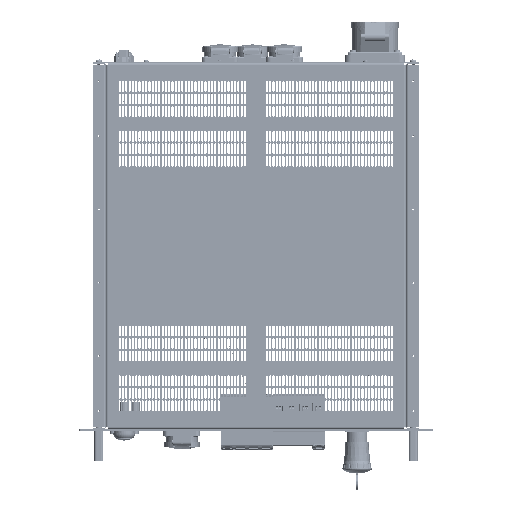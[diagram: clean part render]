
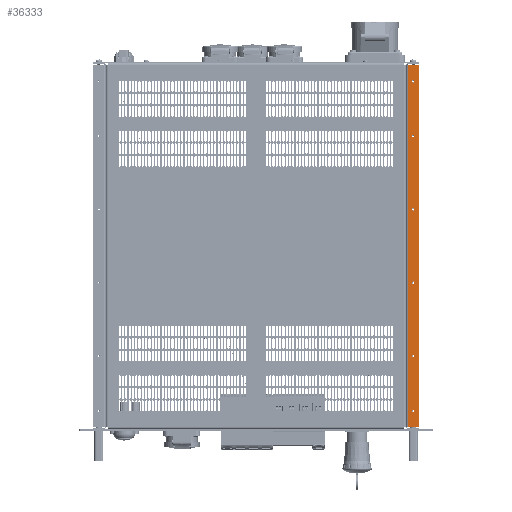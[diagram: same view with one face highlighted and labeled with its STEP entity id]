
A CAD part, top view. The second image highlights one B-rep face of the part: STEP entity #36333.
In plain terms, the highlighted planar face has unit normal (0, 0, 1) as drawn and (1, 0, 0) by its records, which use the part's own axes.
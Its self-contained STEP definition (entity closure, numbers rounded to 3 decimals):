
#36333=ADVANCED_FACE('',(#96306,#96307,#96308,#96309,#96310,#96311,#96312),#96313,.F.);
#96306=FACE_BOUND('',#167359,.T.);
#96307=FACE_BOUND('',#167360,.T.);
#96308=FACE_BOUND('',#167361,.T.);
#96309=FACE_BOUND('',#167362,.T.);
#96310=FACE_BOUND('',#167363,.T.);
#96311=FACE_BOUND('',#167364,.T.);
#96312=FACE_OUTER_BOUND('',#167365,.T.);
#96313=PLANE('',#167366);
#167359=EDGE_LOOP('',(#299490,#299491));
#167360=EDGE_LOOP('',(#299492,#299493));
#167361=EDGE_LOOP('',(#299494,#299495));
#167362=EDGE_LOOP('',(#299496,#299497));
#167363=EDGE_LOOP('',(#299498,#299499));
#167364=EDGE_LOOP('',(#299500,#299501));
#167365=EDGE_LOOP('',(#299502,#299503,#299504,#299505));
#167366=AXIS2_PLACEMENT_3D('',#299506,#299507,#299508);
#299490=ORIENTED_EDGE('',*,*,#418078,.T.);
#299491=ORIENTED_EDGE('',*,*,#418083,.T.);
#299492=ORIENTED_EDGE('',*,*,#419392,.T.);
#299493=ORIENTED_EDGE('',*,*,#417951,.T.);
#299494=ORIENTED_EDGE('',*,*,#419393,.T.);
#299495=ORIENTED_EDGE('',*,*,#417946,.T.);
#299496=ORIENTED_EDGE('',*,*,#419394,.T.);
#299497=ORIENTED_EDGE('',*,*,#417941,.T.);
#299498=ORIENTED_EDGE('',*,*,#419395,.T.);
#299499=ORIENTED_EDGE('',*,*,#417936,.T.);
#299500=ORIENTED_EDGE('',*,*,#419396,.T.);
#299501=ORIENTED_EDGE('',*,*,#417931,.T.);
#299502=ORIENTED_EDGE('',*,*,#418093,.F.);
#299503=ORIENTED_EDGE('',*,*,#419397,.T.);
#299504=ORIENTED_EDGE('',*,*,#419398,.T.);
#299505=ORIENTED_EDGE('',*,*,#419387,.T.);
#299506=CARTESIAN_POINT('',(128.05,250.0,8.5));
#299507=DIRECTION('',(-1.0,0.0,0.));
#299508=DIRECTION('',(0.,0.0,1.0));
#417931=EDGE_CURVE('',#476610,#476614,#476616,.T.);
#417936=EDGE_CURVE('',#476619,#476623,#476625,.T.);
#417941=EDGE_CURVE('',#476628,#476632,#476634,.T.);
#417946=EDGE_CURVE('',#476637,#476641,#476643,.T.);
#417951=EDGE_CURVE('',#476646,#476650,#476652,.T.);
#418078=EDGE_CURVE('',#476877,#476874,#476878,.T.);
#418083=EDGE_CURVE('',#476874,#476877,#476884,.T.);
#418093=EDGE_CURVE('',#476895,#476897,#476898,.T.);
#419387=EDGE_CURVE('',#479438,#476897,#479439,.T.);
#419392=EDGE_CURVE('',#476650,#476646,#479445,.T.);
#419393=EDGE_CURVE('',#476641,#476637,#479446,.T.);
#419394=EDGE_CURVE('',#476632,#476628,#479447,.T.);
#419395=EDGE_CURVE('',#476623,#476619,#479448,.T.);
#419396=EDGE_CURVE('',#476614,#476610,#479449,.T.);
#419397=EDGE_CURVE('',#476895,#479450,#479451,.T.);
#419398=EDGE_CURVE('',#479450,#479438,#479452,.T.);
#476610=VERTEX_POINT('',#554639);
#476614=VERTEX_POINT('',#554644);
#476616=CIRCLE('',#554647,1.75);
#476619=VERTEX_POINT('',#554650);
#476623=VERTEX_POINT('',#554655);
#476625=CIRCLE('',#554658,1.75);
#476628=VERTEX_POINT('',#554661);
#476632=VERTEX_POINT('',#554666);
#476634=CIRCLE('',#554669,1.75);
#476637=VERTEX_POINT('',#554672);
#476641=VERTEX_POINT('',#554677);
#476643=CIRCLE('',#554680,1.75);
#476646=VERTEX_POINT('',#554683);
#476650=VERTEX_POINT('',#554688);
#476652=CIRCLE('',#554691,1.75);
#476874=VERTEX_POINT('',#554961);
#476877=VERTEX_POINT('',#554965);
#476878=CIRCLE('',#554966,1.75);
#476884=CIRCLE('',#554973,1.75);
#476895=VERTEX_POINT('',#554985);
#476897=VERTEX_POINT('',#554987);
#476898=LINE('',#554988,#554989);
#479438=VERTEX_POINT('',#558168);
#479439=LINE('',#558169,#558170);
#479445=CIRCLE('',#558178,1.75);
#479446=CIRCLE('',#558179,1.75);
#479447=CIRCLE('',#558180,1.75);
#479448=CIRCLE('',#558181,1.75);
#479449=CIRCLE('',#558182,1.75);
#479450=VERTEX_POINT('',#558183);
#479451=LINE('',#558184,#558185);
#479452=LINE('',#558186,#558187);
#554639=CARTESIAN_POINT('',(128.05,25.0,9.0));
#554644=CARTESIAN_POINT('',(128.05,25.0,5.5));
#554647=AXIS2_PLACEMENT_3D('',#646904,#646905,#646906);
#554650=CARTESIAN_POINT('',(128.05,100.0,9.0));
#554655=CARTESIAN_POINT('',(128.05,100.0,5.5));
#554658=AXIS2_PLACEMENT_3D('',#646912,#646913,#646914);
#554661=CARTESIAN_POINT('',(128.05,300.0,9.0));
#554666=CARTESIAN_POINT('',(128.05,300.0,5.5));
#554669=AXIS2_PLACEMENT_3D('',#646920,#646921,#646922);
#554672=CARTESIAN_POINT('',(128.05,400.0,9.0));
#554677=CARTESIAN_POINT('',(128.05,400.0,5.5));
#554680=AXIS2_PLACEMENT_3D('',#646928,#646929,#646930);
#554683=CARTESIAN_POINT('',(128.05,475.0,9.0));
#554688=CARTESIAN_POINT('',(128.05,475.0,5.5));
#554691=AXIS2_PLACEMENT_3D('',#646936,#646937,#646938);
#554961=CARTESIAN_POINT('',(128.05,200.0,5.5));
#554965=CARTESIAN_POINT('',(128.05,200.0,9.0));
#554966=AXIS2_PLACEMENT_3D('',#647144,#647145,#647146);
#554973=AXIS2_PLACEMENT_3D('',#647154,#647155,#647156);
#554985=CARTESIAN_POINT('',(128.05,2.5,14.0));
#554987=CARTESIAN_POINT('',(128.05,497.5,14.0));
#554988=CARTESIAN_POINT('',(128.05,250.0,14.0));
#554989=VECTOR('',#647173,1.0);
#558168=CARTESIAN_POINT('',(128.05,497.5,0.0));
#558169=CARTESIAN_POINT('',(128.05,497.5,8.5));
#558170=VECTOR('',#649760,1.0);
#558178=AXIS2_PLACEMENT_3D('',#649766,#649767,#649768);
#558179=AXIS2_PLACEMENT_3D('',#649769,#649770,#649771);
#558180=AXIS2_PLACEMENT_3D('',#649772,#649773,#649774);
#558181=AXIS2_PLACEMENT_3D('',#649775,#649776,#649777);
#558182=AXIS2_PLACEMENT_3D('',#649778,#649779,#649780);
#558183=CARTESIAN_POINT('',(128.05,2.5,0.0));
#558184=CARTESIAN_POINT('',(128.05,2.5,8.5));
#558185=VECTOR('',#649781,1.0);
#558186=CARTESIAN_POINT('',(128.05,250.0,0.0));
#558187=VECTOR('',#649782,1.0);
#646904=CARTESIAN_POINT('',(128.05,25.0,7.25));
#646905=DIRECTION('',(-1.0,0.0,0.));
#646906=DIRECTION('',(0.,0.0,1.0));
#646912=CARTESIAN_POINT('',(128.05,100.0,7.25));
#646913=DIRECTION('',(-1.0,0.0,0.));
#646914=DIRECTION('',(0.,0.0,1.0));
#646920=CARTESIAN_POINT('',(128.05,300.0,7.25));
#646921=DIRECTION('',(-1.0,0.0,0.));
#646922=DIRECTION('',(0.,0.0,1.0));
#646928=CARTESIAN_POINT('',(128.05,400.0,7.25));
#646929=DIRECTION('',(-1.0,0.0,0.));
#646930=DIRECTION('',(0.,0.0,1.0));
#646936=CARTESIAN_POINT('',(128.05,475.0,7.25));
#646937=DIRECTION('',(-1.0,0.0,0.));
#646938=DIRECTION('',(0.,0.0,1.0));
#647144=CARTESIAN_POINT('',(128.05,200.0,7.25));
#647145=DIRECTION('',(-1.0,0.0,0.));
#647146=DIRECTION('',(0.,0.0,-1.0));
#647154=CARTESIAN_POINT('',(128.05,200.0,7.25));
#647155=DIRECTION('',(-1.0,0.0,0.));
#647156=DIRECTION('',(0.,0.0,-1.0));
#647173=DIRECTION('',(0.0,1.0,0.0));
#649760=DIRECTION('',(0.0,0.0,1.0));
#649766=CARTESIAN_POINT('',(128.05,475.0,7.25));
#649767=DIRECTION('',(-1.0,0.0,0.));
#649768=DIRECTION('',(0.,0.0,1.0));
#649769=CARTESIAN_POINT('',(128.05,400.0,7.25));
#649770=DIRECTION('',(-1.0,0.0,0.));
#649771=DIRECTION('',(0.,0.0,1.0));
#649772=CARTESIAN_POINT('',(128.05,300.0,7.25));
#649773=DIRECTION('',(-1.0,0.0,0.));
#649774=DIRECTION('',(0.,0.0,1.0));
#649775=CARTESIAN_POINT('',(128.05,100.0,7.25));
#649776=DIRECTION('',(-1.0,0.0,0.));
#649777=DIRECTION('',(0.,0.0,1.0));
#649778=CARTESIAN_POINT('',(128.05,25.0,7.25));
#649779=DIRECTION('',(-1.0,0.0,0.));
#649780=DIRECTION('',(0.,0.0,1.0));
#649781=DIRECTION('',(0.0,0.0,-1.0));
#649782=DIRECTION('',(0.0,1.0,0.0));
